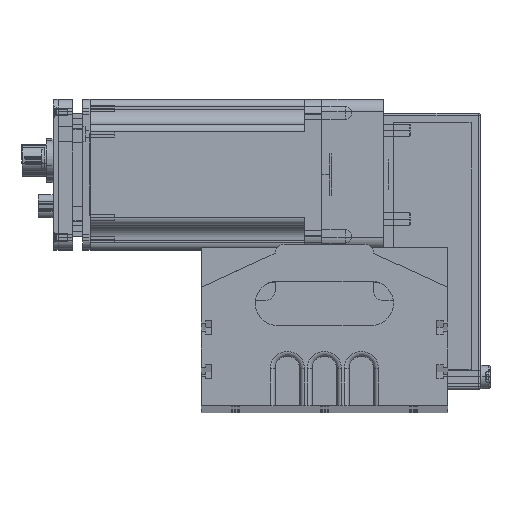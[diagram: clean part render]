
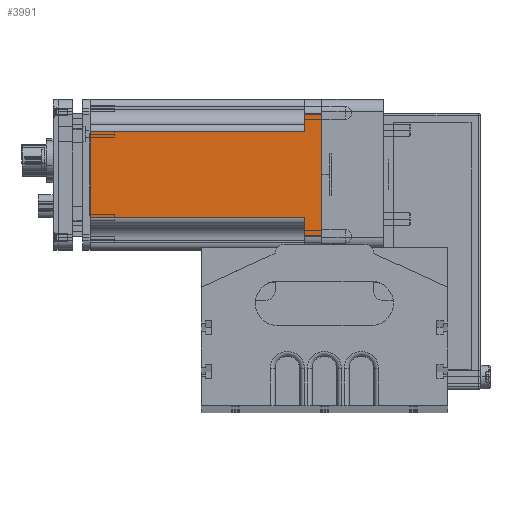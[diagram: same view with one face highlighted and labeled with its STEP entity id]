
A CAD part, top view. The second image highlights one B-rep face of the part: STEP entity #3991.
In plain terms, the highlighted planar face has unit normal (0, 0, 1).
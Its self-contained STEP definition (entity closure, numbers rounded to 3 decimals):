
#899 = VERTEX_POINT ( 'NONE', #39003 ) ;
#913 = EDGE_CURVE ( 'NONE', #899, #5989, #39092, .T. ) ;
#3178 = ORIENTED_EDGE ( 'NONE', *, *, #3984, .T. ) ;
#3179 = ORIENTED_EDGE ( 'NONE', *, *, #3696, .F. ) ;
#3441 = VERTEX_POINT ( 'NONE', #39653 ) ;
#3474 = EDGE_LOOP ( 'NONE', ( #3179, #3606, #3938, #3178, #3985, #4715, #3735, #4702 ) ) ;
#3606 = ORIENTED_EDGE ( 'NONE', *, *, #5998, .F. ) ;
#3696 = EDGE_CURVE ( 'NONE', #5995, #3713, #39637, .T. ) ;
#3710 = VERTEX_POINT ( 'NONE', #39692 ) ;
#3713 = VERTEX_POINT ( 'NONE', #39685 ) ;
#3735 = ORIENTED_EDGE ( 'NONE', *, *, #4636, .F. ) ;
#3736 = EDGE_CURVE ( 'NONE', #3986, #3441, #39680, .T. ) ;
#3938 = ORIENTED_EDGE ( 'NONE', *, *, #913, .F. ) ;
#3980 = EDGE_CURVE ( 'NONE', #3441, #4254, #39670, .T. ) ;
#3984 = EDGE_CURVE ( 'NONE', #899, #4254, #39662, .T. ) ;
#3985 = ORIENTED_EDGE ( 'NONE', *, *, #3980, .F. ) ;
#3986 = VERTEX_POINT ( 'NONE', #39722 ) ;
#3991 = ADVANCED_FACE ( 'NONE', ( #39665 ), #39671, .F. ) ;
#4254 = VERTEX_POINT ( 'NONE', #39638 ) ;
#4636 = EDGE_CURVE ( 'NONE', #3710, #3986, #39739, .T. ) ;
#4702 = ORIENTED_EDGE ( 'NONE', *, *, #4706, .F. ) ;
#4706 = EDGE_CURVE ( 'NONE', #3713, #3710, #39745, .T. ) ;
#4715 = ORIENTED_EDGE ( 'NONE', *, *, #3736, .F. ) ;
#5989 = VERTEX_POINT ( 'NONE', #40331 ) ;
#5995 = VERTEX_POINT ( 'NONE', #40273 ) ;
#5998 = EDGE_CURVE ( 'NONE', #5989, #5995, #40323, .T. ) ;
#39003 = CARTESIAN_POINT ( 'NONE',  ( -24.5, 0., 30.5 ) ) ;
#39089 = DIRECTION ( 'NONE',  ( 0., 1., 0. ) ) ;
#39090 = VECTOR ( 'NONE', #39089, 1000. ) ;
#39091 = CARTESIAN_POINT ( 'NONE',  ( -24.5, 7., 30.5 ) ) ;
#39092 = LINE ( 'NONE', #39091, #39090 ) ;
#39637 = LINE ( 'NONE', #39691, #39690 ) ;
#39638 = CARTESIAN_POINT ( 'NONE',  ( 24.5, 0., 30.5 ) ) ;
#39653 = CARTESIAN_POINT ( 'NONE',  ( 24.5, 7., 30.5 ) ) ;
#39661 = CARTESIAN_POINT ( 'NONE',  ( -24.5, 0., 30.5 ) ) ;
#39662 = LINE ( 'NONE', #39661, #39724 ) ;
#39663 = DIRECTION ( 'NONE',  ( 0., -1., 0. ) ) ;
#39664 = VECTOR ( 'NONE', #39663, 1000. ) ;
#39665 = FACE_OUTER_BOUND ( 'NONE', #3474, .T. ) ;
#39669 = CARTESIAN_POINT ( 'NONE',  ( 24.5, 7., 30.5 ) ) ;
#39670 = LINE ( 'NONE', #39669, #39664 ) ;
#39671 = PLANE ( 'NONE',  #39721 ) ;
#39672 = DIRECTION ( 'NONE',  ( 1., 0., 0. ) ) ;
#39673 = VECTOR ( 'NONE', #39672, 1000. ) ;
#39674 = CARTESIAN_POINT ( 'NONE',  ( -24.5, 7., 30.5 ) ) ;
#39680 = LINE ( 'NONE', #39674, #39673 ) ;
#39682 = CARTESIAN_POINT ( 'NONE',  ( -24.5, 7., 30.5 ) ) ;
#39685 = CARTESIAN_POINT ( 'NONE',  ( -17.5, 94., 30.5 ) ) ;
#39689 = DIRECTION ( 'NONE',  ( 0., 1., 0. ) ) ;
#39690 = VECTOR ( 'NONE', #39689, 1000. ) ;
#39691 = CARTESIAN_POINT ( 'NONE',  ( -17.5, 7., 30.5 ) ) ;
#39692 = CARTESIAN_POINT ( 'NONE',  ( 17.5, 94., 30.5 ) ) ;
#39718 = DIRECTION ( 'NONE',  ( -1., 0., 0. ) ) ;
#39719 = DIRECTION ( 'NONE',  ( 0., 0., -1. ) ) ;
#39721 = AXIS2_PLACEMENT_3D ( 'NONE', #39682, #39719, #39718 ) ;
#39722 = CARTESIAN_POINT ( 'NONE',  ( 17.5, 7., 30.5 ) ) ;
#39723 = DIRECTION ( 'NONE',  ( 1., 0., 0. ) ) ;
#39724 = VECTOR ( 'NONE', #39723, 1000. ) ;
#39733 = DIRECTION ( 'NONE',  ( 1., 0., 0. ) ) ;
#39734 = VECTOR ( 'NONE', #39733, 1000. ) ;
#39735 = CARTESIAN_POINT ( 'NONE',  ( 26.5, 94., 30.5 ) ) ;
#39736 = DIRECTION ( 'NONE',  ( 0., -1., 0. ) ) ;
#39737 = VECTOR ( 'NONE', #39736, 1000. ) ;
#39738 = CARTESIAN_POINT ( 'NONE',  ( 17.5, 95.35, 30.5 ) ) ;
#39739 = LINE ( 'NONE', #39738, #39737 ) ;
#39745 = LINE ( 'NONE', #39735, #39734 ) ;
#40273 = CARTESIAN_POINT ( 'NONE',  ( -17.5, 7., 30.5 ) ) ;
#40320 = DIRECTION ( 'NONE',  ( 1., 0., 0. ) ) ;
#40321 = VECTOR ( 'NONE', #40320, 1000. ) ;
#40322 = CARTESIAN_POINT ( 'NONE',  ( -24.5, 7., 30.5 ) ) ;
#40323 = LINE ( 'NONE', #40322, #40321 ) ;
#40331 = CARTESIAN_POINT ( 'NONE',  ( -24.5, 7., 30.5 ) ) ;
